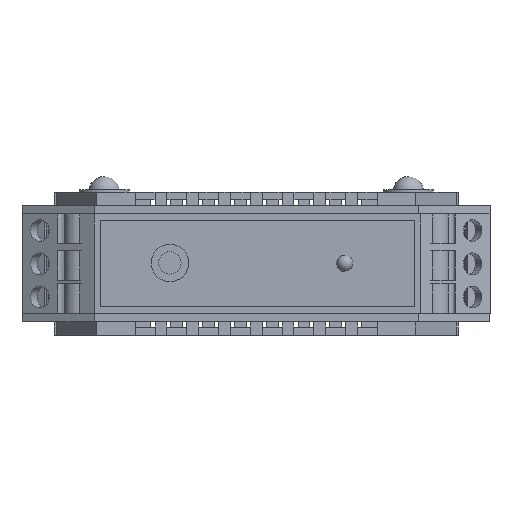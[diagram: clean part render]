
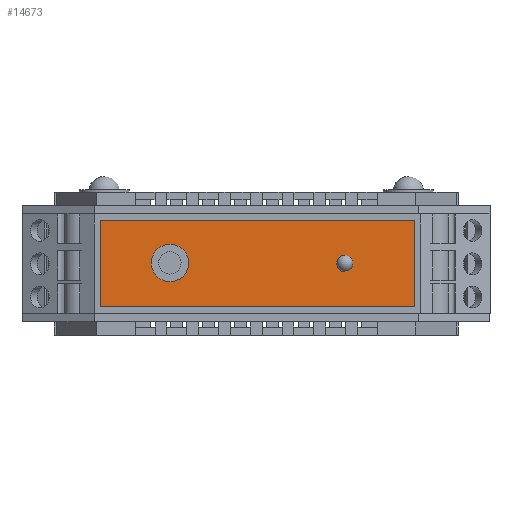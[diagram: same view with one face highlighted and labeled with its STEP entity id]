
A CAD part, front view. The second image highlights one B-rep face of the part: STEP entity #14673.
In plain terms, the highlighted planar face has unit normal (0.005, -1, 0).
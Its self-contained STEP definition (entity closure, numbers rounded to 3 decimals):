
#248=FACE_BOUND('',#1957,.T.);
#675=PLANE('',#15450);
#1275=FACE_OUTER_BOUND('',#1956,.T.);
#1956=EDGE_LOOP('',(#12275,#12276,#12277,#12278));
#1957=EDGE_LOOP('',(#12279,#12280));
#2444=CIRCLE('',#15446,3.);
#3453=LINE('',#23152,#5320);
#3462=LINE('',#23171,#5329);
#3731=LINE('',#24515,#5598);
#3732=LINE('',#24518,#5599);
#3733=LINE('',#24519,#5600);
#5320=VECTOR('',#17290,10.);
#5329=VECTOR('',#17303,10.);
#5598=VECTOR('',#17830,10.);
#5599=VECTOR('',#17833,10.);
#5600=VECTOR('',#17834,10.);
#6982=VERTEX_POINT('',#23149);
#6983=VERTEX_POINT('',#23151);
#6988=VERTEX_POINT('',#23164);
#6991=VERTEX_POINT('',#23169);
#7217=VERTEX_POINT('',#24513);
#7218=VERTEX_POINT('',#24517);
#8730=EDGE_CURVE('',#6982,#6983,#3453,.T.);
#8739=EDGE_CURVE('',#6991,#6988,#3462,.T.);
#9058=EDGE_CURVE('',#6991,#6988,#2444,.T.);
#9066=EDGE_CURVE('',#7217,#6982,#3731,.T.);
#9067=EDGE_CURVE('',#7218,#7217,#3732,.T.);
#9068=EDGE_CURVE('',#6983,#7218,#3733,.T.);
#12275=ORIENTED_EDGE('',*,*,#9066,.F.);
#12276=ORIENTED_EDGE('',*,*,#9067,.F.);
#12277=ORIENTED_EDGE('',*,*,#9068,.F.);
#12278=ORIENTED_EDGE('',*,*,#8730,.F.);
#12279=ORIENTED_EDGE('',*,*,#8739,.F.);
#12280=ORIENTED_EDGE('',*,*,#9058,.T.);
#14673=ADVANCED_FACE('',(#1275,#248),#675,.F.);
#15446=AXIS2_PLACEMENT_3D('',#24499,#17816,#17817);
#15450=AXIS2_PLACEMENT_3D('',#24516,#17831,#17832);
#17290=DIRECTION('',(-1.,-0.005,0.));
#17303=DIRECTION('',(1.,0.005,0.));
#17816=DIRECTION('center_axis',(-0.005,1.,0.));
#17817=DIRECTION('ref_axis',(1.,0.005,0.));
#17830=DIRECTION('',(0.,0.,-1.));
#17831=DIRECTION('center_axis',(-0.005,1.,0.));
#17832=DIRECTION('ref_axis',(0.,0.,1.));
#17833=DIRECTION('',(1.,0.005,0.));
#17834=DIRECTION('',(0.,0.,1.));
#23149=CARTESIAN_POINT('',(25.407,-43.754,-9.524));
#23151=CARTESIAN_POINT('',(-25.005,-43.995,-9.524));
#23152=CARTESIAN_POINT('',(25.407,-43.754,-9.524));
#23164=CARTESIAN_POINT('',(-12.789,-43.937,-5.333));
#23169=CARTESIAN_POINT('',(-14.903,-43.947,-5.333));
#23171=CARTESIAN_POINT('',(0.205,-43.875,-5.333));
#24499=CARTESIAN_POINT('Origin',(-13.846,-43.942,-2.525));
#24513=CARTESIAN_POINT('',(25.407,-43.754,4.333));
#24515=CARTESIAN_POINT('',(25.407,-43.754,4.333));
#24516=CARTESIAN_POINT('Origin',(0.201,-43.875,-2.596));
#24517=CARTESIAN_POINT('',(-25.005,-43.995,4.333));
#24518=CARTESIAN_POINT('',(-25.005,-43.995,4.333));
#24519=CARTESIAN_POINT('',(-25.005,-43.995,-9.524));
